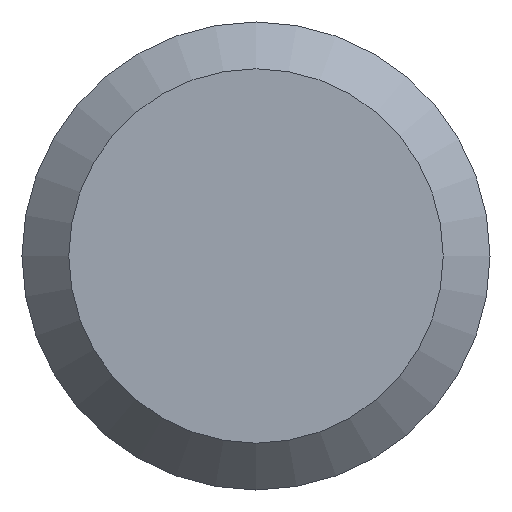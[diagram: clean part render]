
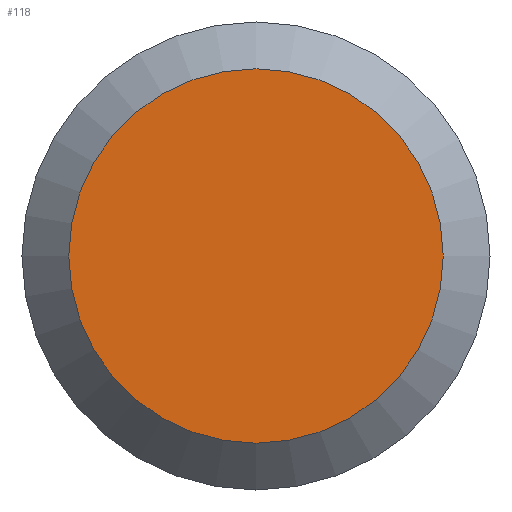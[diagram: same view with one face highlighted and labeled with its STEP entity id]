
A CAD part, left-side view. The second image highlights one B-rep face of the part: STEP entity #118.
In plain terms, the highlighted planar face has unit normal (-1, 0, 0).
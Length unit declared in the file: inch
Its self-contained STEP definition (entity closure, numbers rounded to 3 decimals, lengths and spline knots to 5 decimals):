
#20 = DIRECTION ( 'NONE',  ( -1., 0., 0. ) ) ;
#38 = ORIENTED_EDGE ( 'NONE', *, *, #220, .T. ) ;
#41 = VERTEX_POINT ( 'NONE', #221 ) ;
#77 = CARTESIAN_POINT ( 'NONE',  ( 0., 0.04675, 0. ) ) ;
#88 = EDGE_LOOP ( 'NONE', ( #38 ) ) ;
#104 = CIRCLE ( 'NONE', #115, 0.0374 ) ;
#114 = DIRECTION ( 'NONE',  ( 1., 0., 0. ) ) ;
#115 = AXIS2_PLACEMENT_3D ( 'NONE', #157, #20, #175 ) ;
#118 = ADVANCED_FACE ( 'NONE', ( #202 ), #212, .F. ) ;
#155 = DIRECTION ( 'NONE',  ( 0., 0., -1. ) ) ;
#157 = CARTESIAN_POINT ( 'NONE',  ( 0., 0., 0. ) ) ;
#175 = DIRECTION ( 'NONE',  ( 0., 0., -1. ) ) ;
#193 = AXIS2_PLACEMENT_3D ( 'NONE', #77, #114, #155 ) ;
#202 = FACE_OUTER_BOUND ( 'NONE', #88, .T. ) ;
#212 = PLANE ( 'NONE',  #193 ) ;
#220 = EDGE_CURVE ( 'NONE', #41, #41, #104, .T. ) ;
#221 = CARTESIAN_POINT ( 'NONE',  ( 0., 0., -0.0374 ) ) ;
